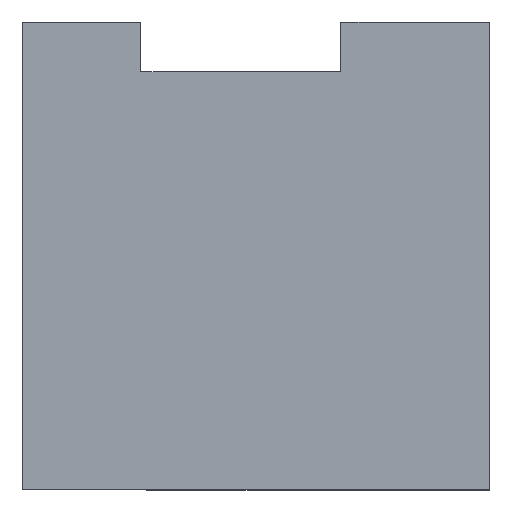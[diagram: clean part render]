
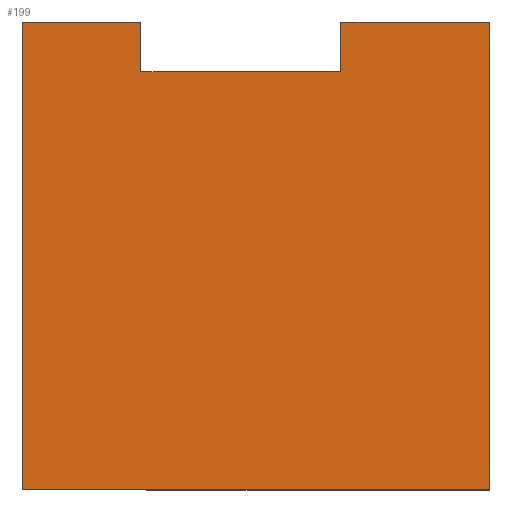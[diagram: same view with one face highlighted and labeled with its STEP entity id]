
A CAD part, top view. The second image highlights one B-rep face of the part: STEP entity #199.
In plain terms, the highlighted planar face has unit normal (0, 0, 1).
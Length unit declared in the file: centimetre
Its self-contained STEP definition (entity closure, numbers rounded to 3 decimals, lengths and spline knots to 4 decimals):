
#3 = VECTOR ( 'NONE', #407, 100. ) ;
#7 = ORIENTED_EDGE ( 'NONE', *, *, #19, .T. ) ;
#12 = LINE ( 'NONE', #344, #35 ) ;
#19 = EDGE_CURVE ( 'NONE', #186, #206, #237, .T. ) ;
#20 = ORIENTED_EDGE ( 'NONE', *, *, #48, .T. ) ;
#24 = EDGE_CURVE ( 'NONE', #229, #313, #12, .T. ) ;
#25 = FACE_OUTER_BOUND ( 'NONE', #355, .T. ) ;
#27 = CARTESIAN_POINT ( 'NONE',  ( 0., 0., 1000. ) ) ;
#33 = ORIENTED_EDGE ( 'NONE', *, *, #259, .T. ) ;
#35 = VECTOR ( 'NONE', #272, 100. ) ;
#48 = EDGE_CURVE ( 'NONE', #342, #416, #372, .T. ) ;
#49 = VERTEX_POINT ( 'NONE', #208 ) ;
#58 = VECTOR ( 'NONE', #128, 100. ) ;
#60 = DIRECTION ( 'NONE',  ( 0., 0., 1. ) ) ;
#67 = CARTESIAN_POINT ( 'NONE',  ( 1000., 1000., 1000. ) ) ;
#75 = CARTESIAN_POINT ( 'NONE',  ( 0., 0., 1000. ) ) ;
#76 = CARTESIAN_POINT ( 'NONE',  ( 0., 1000., 1000. ) ) ;
#82 = VERTEX_POINT ( 'NONE', #335 ) ;
#83 = CARTESIAN_POINT ( 'NONE',  ( 0., 1000., 1000. ) ) ;
#100 = DIRECTION ( 'NONE',  ( 0., 1., 0. ) ) ;
#102 = DIRECTION ( 'NONE',  ( 0., -1., 0. ) ) ;
#128 = DIRECTION ( 'NONE',  ( 1., 0., 0. ) ) ;
#133 = EDGE_CURVE ( 'NONE', #82, #186, #403, .T. ) ;
#155 = EDGE_CURVE ( 'NONE', #313, #82, #431, .T. ) ;
#159 = CARTESIAN_POINT ( 'NONE',  ( 0., 0., 1000. ) ) ;
#175 = LINE ( 'NONE', #271, #204 ) ;
#186 = VERTEX_POINT ( 'NONE', #234 ) ;
#188 = EDGE_CURVE ( 'NONE', #416, #229, #327, .T. ) ;
#192 = CARTESIAN_POINT ( 'NONE',  ( 0., 1000., 1000. ) ) ;
#199 = ADVANCED_FACE ( 'NONE', ( #25 ), #366, .T. ) ;
#204 = VECTOR ( 'NONE', #100, 100. ) ;
#206 = VERTEX_POINT ( 'NONE', #369 ) ;
#208 = CARTESIAN_POINT ( 'NONE',  ( 253.7224, 1000., 1000. ) ) ;
#218 = ORIENTED_EDGE ( 'NONE', *, *, #412, .T. ) ;
#225 = VECTOR ( 'NONE', #384, 100. ) ;
#229 = VERTEX_POINT ( 'NONE', #371 ) ;
#231 = CARTESIAN_POINT ( 'NONE',  ( 681.7691, 893.94, 1000. ) ) ;
#234 = CARTESIAN_POINT ( 'NONE',  ( 681.7691, 893.94, 1000. ) ) ;
#237 = LINE ( 'NONE', #377, #3 ) ;
#250 = VECTOR ( 'NONE', #102, 100. ) ;
#259 = EDGE_CURVE ( 'NONE', #206, #49, #175, .T. ) ;
#267 = ORIENTED_EDGE ( 'NONE', *, *, #155, .T. ) ;
#271 = CARTESIAN_POINT ( 'NONE',  ( 253.7224, 893.94, 1000. ) ) ;
#272 = DIRECTION ( 'NONE',  ( 0., 1., 0. ) ) ;
#274 = ORIENTED_EDGE ( 'NONE', *, *, #24, .T. ) ;
#298 = AXIS2_PLACEMENT_3D ( 'NONE', #27, #60, #401 ) ;
#299 = DIRECTION ( 'NONE',  ( 0., -1., 0. ) ) ;
#307 = CARTESIAN_POINT ( 'NONE',  ( 0., 1000., 1000. ) ) ;
#309 = ORIENTED_EDGE ( 'NONE', *, *, #188, .T. ) ;
#313 = VERTEX_POINT ( 'NONE', #67 ) ;
#316 = ORIENTED_EDGE ( 'NONE', *, *, #133, .T. ) ;
#326 = DIRECTION ( 'NONE',  ( -1., 0., 0. ) ) ;
#327 = LINE ( 'NONE', #159, #58 ) ;
#335 = CARTESIAN_POINT ( 'NONE',  ( 681.7691, 1000., 1000. ) ) ;
#342 = VERTEX_POINT ( 'NONE', #76 ) ;
#344 = CARTESIAN_POINT ( 'NONE',  ( 1000., 1000., 1000. ) ) ;
#355 = EDGE_LOOP ( 'NONE', ( #33, #218, #20, #309, #274, #267, #316, #7 ) ) ;
#366 = PLANE ( 'NONE',  #298 ) ;
#369 = CARTESIAN_POINT ( 'NONE',  ( 253.7224, 893.94, 1000. ) ) ;
#370 = VECTOR ( 'NONE', #326, 100. ) ;
#371 = CARTESIAN_POINT ( 'NONE',  ( 1000., 0., 1000. ) ) ;
#372 = LINE ( 'NONE', #307, #250 ) ;
#377 = CARTESIAN_POINT ( 'NONE',  ( 253.7224, 893.94, 1000. ) ) ;
#378 = VECTOR ( 'NONE', #299, 100. ) ;
#384 = DIRECTION ( 'NONE',  ( -1., 0., 0. ) ) ;
#401 = DIRECTION ( 'NONE',  ( 1., 0., 0. ) ) ;
#403 = LINE ( 'NONE', #231, #378 ) ;
#407 = DIRECTION ( 'NONE',  ( -1., 0., 0. ) ) ;
#412 = EDGE_CURVE ( 'NONE', #49, #342, #417, .T. ) ;
#416 = VERTEX_POINT ( 'NONE', #75 ) ;
#417 = LINE ( 'NONE', #83, #225 ) ;
#431 = LINE ( 'NONE', #192, #370 ) ;
